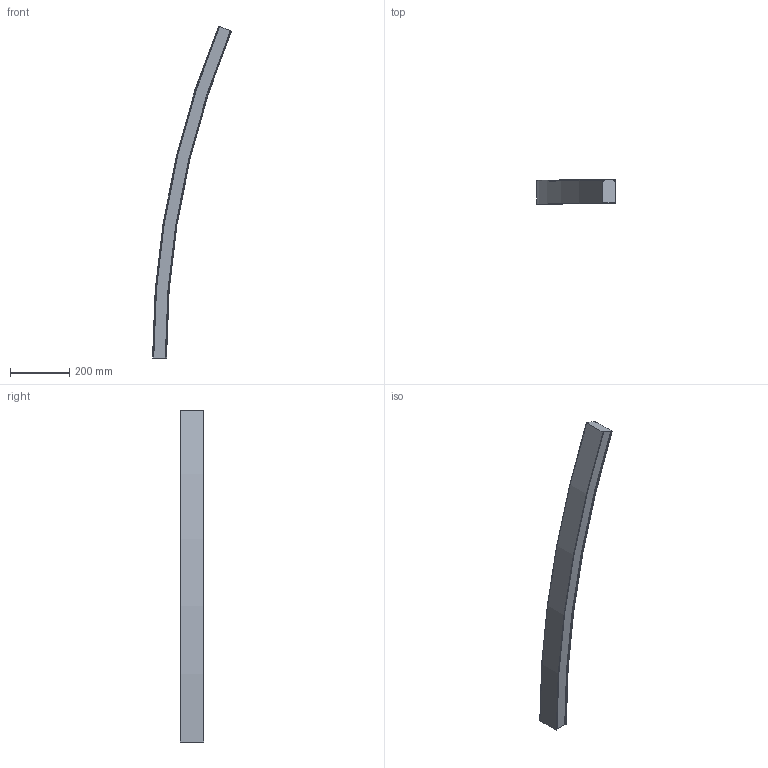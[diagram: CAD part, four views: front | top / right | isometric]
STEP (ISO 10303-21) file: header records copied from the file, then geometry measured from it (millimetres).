
FILE_DESCRIPTION (( 'STEP AP203' ), '1' );
FILE_NAME ('mLight_Swerve 47_R2900 22.5deg.STEP', '2020-03-31T23:27:29', ( '' ), ( '' ), 'SwSTEP 2.0', 'SolidWorks 2017', '' );
FILE_SCHEMA (( 'CONFIG_CONTROL_DESIGN' ));
Length unit declared in the file: millimetre
Products named in the file (1): mLight_Swerve 47_R2900 22.5deg
Bounding box: 265.96 x 80.63 x 1118.78 mm (x, y, z)
Volume: 4105819 mm3; surface area: 321636.8 mm2
Topology: 1 solids, 1 shells, 46 faces, 132 edges, 88 vertices
Faces by surface type: torus 24, plane 10, cylinder 6, cone 6
Entity records: 1645 total; most frequent: DIRECTION 318, CARTESIAN_POINT 267, ORIENTED_EDGE 264, AXIS2_PLACEMENT_3D 139, EDGE_CURVE 132, CIRCLE 92, VERTEX_POINT 88, ADVANCED_FACE 46
